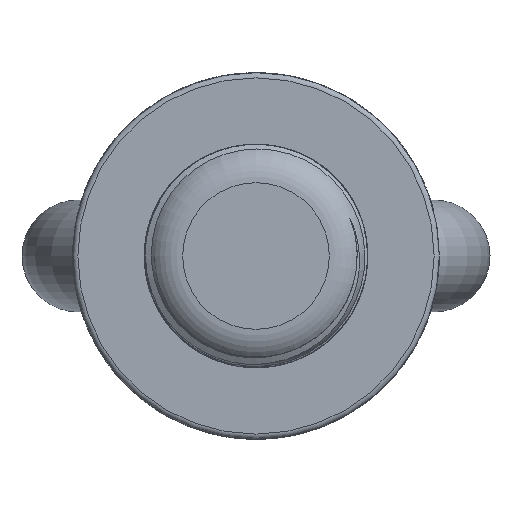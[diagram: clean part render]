
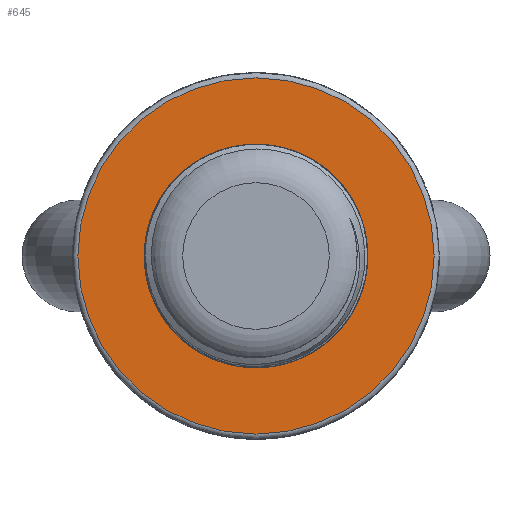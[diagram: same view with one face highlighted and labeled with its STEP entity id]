
A CAD part, front view. The second image highlights one B-rep face of the part: STEP entity #645.
In plain terms, the highlighted planar face has unit normal (0, -1, 0).
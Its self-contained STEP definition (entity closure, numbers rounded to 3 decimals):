
#525=CIRCLE('',#4711,51.);
#526=CIRCLE('',#4713,31.2);
#645=ADVANCED_FACE('',(#1336,#1337),#914,.F.);
#914=PLANE('',#4714);
#1336=FACE_BOUND('',#1403,.T.);
#1337=FACE_BOUND('',#1404,.T.);
#1403=EDGE_LOOP('',(#1872));
#1404=EDGE_LOOP('',(#1873));
#1872=ORIENTED_EDGE('',*,*,#3618,.F.);
#1873=ORIENTED_EDGE('',*,*,#3617,.T.);
#3176=VERTEX_POINT('',#6766);
#3177=VERTEX_POINT('',#6769);
#3617=EDGE_CURVE('',#3176,#3176,#525,.T.);
#3618=EDGE_CURVE('',#3177,#3177,#526,.T.);
#4711=AXIS2_PLACEMENT_3D('',#6765,#5197,#5198);
#4713=AXIS2_PLACEMENT_3D('',#6768,#5201,#5202);
#4714=AXIS2_PLACEMENT_3D('',#6770,#5203,#5204);
#5197=DIRECTION('',(0.,-1.,0.));
#5198=DIRECTION('',(1.,0.,0.));
#5201=DIRECTION('',(0.,-1.,0.));
#5202=DIRECTION('',(1.,0.,0.));
#5203=DIRECTION('',(0.,1.,0.));
#5204=DIRECTION('',(-1.,0.,0.));
#6765=CARTESIAN_POINT('',(0.,-35.501,0.));
#6766=CARTESIAN_POINT('',(51.,-35.501,0.));
#6768=CARTESIAN_POINT('',(0.,-35.501,0.));
#6769=CARTESIAN_POINT('',(31.2,-35.501,0.));
#6770=CARTESIAN_POINT('',(51.,-35.501,0.));
